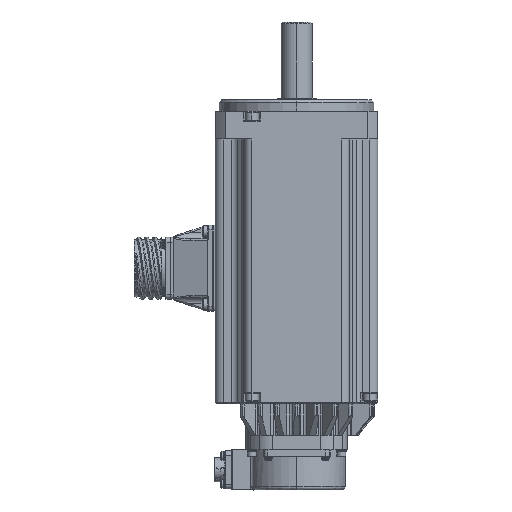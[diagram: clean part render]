
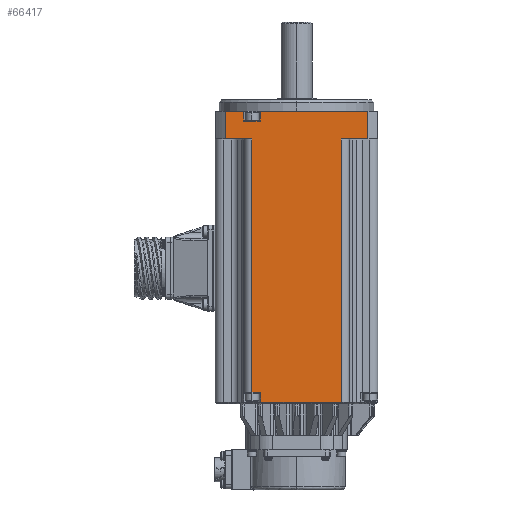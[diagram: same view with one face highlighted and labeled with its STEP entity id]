
A CAD part, left-side view. The second image highlights one B-rep face of the part: STEP entity #66417.
In plain terms, the highlighted planar face has unit normal (-1, 0, 0).
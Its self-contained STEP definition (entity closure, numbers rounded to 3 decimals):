
#910 = VECTOR ( 'NONE', #68885, 1000. ) ;
#1108 = ORIENTED_EDGE ( 'NONE', *, *, #84212, .F. ) ;
#1290 = LINE ( 'NONE', #11956, #14723 ) ;
#1925 = ORIENTED_EDGE ( 'NONE', *, *, #25030, .F. ) ;
#2282 = CARTESIAN_POINT ( 'NONE',  ( 103.295, 174.37, 65.456 ) ) ;
#3080 = VECTOR ( 'NONE', #44673, 1000. ) ;
#3861 = CARTESIAN_POINT ( 'NONE',  ( 103.295, 174.37, 258.956 ) ) ;
#3982 = DIRECTION ( 'NONE',  ( 0., 0., -1. ) ) ;
#3992 = CARTESIAN_POINT ( 'NONE',  ( 103.295, 119.37, 252.956 ) ) ;
#4182 = EDGE_CURVE ( 'NONE', #43213, #47308, #70264, .T. ) ;
#4592 = VERTEX_POINT ( 'NONE', #78632 ) ;
#5978 = CARTESIAN_POINT ( 'NONE',  ( 103.295, 101.87, 258.956 ) ) ;
#8113 = EDGE_CURVE ( 'NONE', #84380, #43213, #46900, .T. ) ;
#8205 = CARTESIAN_POINT ( 'NONE',  ( 103.295, 195.714, 65.456 ) ) ;
#8455 = VECTOR ( 'NONE', #24020, 1000. ) ;
#8927 = DIRECTION ( 'NONE',  ( 0., 0., 1. ) ) ;
#8991 = VERTEX_POINT ( 'NONE', #31332 ) ;
#9054 = VECTOR ( 'NONE', #26387, 1000. ) ;
#9138 = CARTESIAN_POINT ( 'NONE',  ( 103.295, 179.37, 241.956 ) ) ;
#9979 = EDGE_CURVE ( 'NONE', #64198, #76011, #45815, .T. ) ;
#11956 = CARTESIAN_POINT ( 'NONE',  ( 103.295, 179.37, 65.456 ) ) ;
#12300 = VECTOR ( 'NONE', #24030, 1000. ) ;
#12484 = LINE ( 'NONE', #83688, #83376 ) ;
#12647 = DIRECTION ( 'NONE',  ( 0., -1., 0. ) ) ;
#12800 = LINE ( 'NONE', #2282, #46019 ) ;
#13092 = VECTOR ( 'NONE', #34863, 1000. ) ;
#13668 = VECTOR ( 'NONE', #61440, 1000. ) ;
#14723 = VECTOR ( 'NONE', #18603, 1000. ) ;
#14727 = EDGE_CURVE ( 'NONE', #16373, #85250, #30513, .T. ) ;
#15176 = LINE ( 'NONE', #74745, #13092 ) ;
#15423 = CARTESIAN_POINT ( 'NONE',  ( 103.295, 184.37, 258.956 ) ) ;
#15725 = CARTESIAN_POINT ( 'NONE',  ( 103.295, 179.37, 85.956 ) ) ;
#15756 = CARTESIAN_POINT ( 'NONE',  ( 103.295, 119.37, 65.456 ) ) ;
#16373 = VERTEX_POINT ( 'NONE', #3861 ) ;
#17181 = EDGE_CURVE ( 'NONE', #8991, #4592, #73990, .T. ) ;
#18498 = LINE ( 'NONE', #62200, #910 ) ;
#18603 = DIRECTION ( 'NONE',  ( 0., 0., 1. ) ) ;
#20009 = EDGE_CURVE ( 'NONE', #83684, #54760, #49702, .T. ) ;
#22807 = VERTEX_POINT ( 'NONE', #77439 ) ;
#23556 = ORIENTED_EDGE ( 'NONE', *, *, #4182, .F. ) ;
#24020 = DIRECTION ( 'NONE',  ( 0., 1., 0. ) ) ;
#24030 = DIRECTION ( 'NONE',  ( 0., -1., 0. ) ) ;
#25030 = EDGE_CURVE ( 'NONE', #85250, #65761, #56078, .T. ) ;
#25996 = VECTOR ( 'NONE', #68546, 1000. ) ;
#26387 = DIRECTION ( 'NONE',  ( 0., 0., -1. ) ) ;
#27521 = CARTESIAN_POINT ( 'NONE',  ( 103.295, 173.87, 85.956 ) ) ;
#28251 = ORIENTED_EDGE ( 'NONE', *, *, #14727, .F. ) ;
#28375 = CARTESIAN_POINT ( 'NONE',  ( 103.295, 108.027, 258.956 ) ) ;
#29316 = EDGE_LOOP ( 'NONE', ( #1108, #76511, #77282, #1925, #28251, #42912, #43715, #52025, #23556, #43315, #52908, #66127, #45195, #44630 ) ) ;
#30513 = LINE ( 'NONE', #43639, #50212 ) ;
#30724 = CARTESIAN_POINT ( 'NONE',  ( 103.295, 119.37, 85.956 ) ) ;
#31332 = CARTESIAN_POINT ( 'NONE',  ( 103.295, 124.37, 241.956 ) ) ;
#31768 = EDGE_CURVE ( 'NONE', #54760, #16373, #12800, .T. ) ;
#33033 = CARTESIAN_POINT ( 'NONE',  ( 103.295, 184.37, 65.456 ) ) ;
#33385 = EDGE_CURVE ( 'NONE', #76011, #63235, #1290, .T. ) ;
#34863 = DIRECTION ( 'NONE',  ( 0., 1., 0. ) ) ;
#35831 = DIRECTION ( 'NONE',  ( 1., 0., 0. ) ) ;
#38563 = VECTOR ( 'NONE', #3982, 1000. ) ;
#42047 = CARTESIAN_POINT ( 'NONE',  ( 103.295, 119.37, 241.956 ) ) ;
#42089 = EDGE_CURVE ( 'NONE', #63235, #84380, #18498, .T. ) ;
#42912 = ORIENTED_EDGE ( 'NONE', *, *, #31768, .F. ) ;
#43213 = VERTEX_POINT ( 'NONE', #69767 ) ;
#43315 = ORIENTED_EDGE ( 'NONE', *, *, #8113, .F. ) ;
#43639 = CARTESIAN_POINT ( 'NONE',  ( 103.295, 101.87, 258.956 ) ) ;
#43715 = ORIENTED_EDGE ( 'NONE', *, *, #20009, .F. ) ;
#44588 = CARTESIAN_POINT ( 'NONE',  ( 103.295, 174.37, 252.956 ) ) ;
#44630 = ORIENTED_EDGE ( 'NONE', *, *, #71289, .F. ) ;
#44673 = DIRECTION ( 'NONE',  ( 0., 0., -1. ) ) ;
#45195 = ORIENTED_EDGE ( 'NONE', *, *, #9979, .F. ) ;
#45815 = LINE ( 'NONE', #30724, #8455 ) ;
#46019 = VECTOR ( 'NONE', #8927, 1000. ) ;
#46900 = LINE ( 'NONE', #8205, #13668 ) ;
#47308 = VERTEX_POINT ( 'NONE', #15423 ) ;
#49702 = LINE ( 'NONE', #3992, #12300 ) ;
#50212 = VECTOR ( 'NONE', #83665, 1000. ) ;
#50351 = DIRECTION ( 'NONE',  ( 0., 0., 1. ) ) ;
#50426 = CARTESIAN_POINT ( 'NONE',  ( 103.295, 124.37, 65.456 ) ) ;
#50488 = CARTESIAN_POINT ( 'NONE',  ( 103.295, 195.714, 241.956 ) ) ;
#52025 = ORIENTED_EDGE ( 'NONE', *, *, #57353, .F. ) ;
#52908 = ORIENTED_EDGE ( 'NONE', *, *, #42089, .F. ) ;
#54511 = EDGE_CURVE ( 'NONE', #65761, #8991, #77022, .T. ) ;
#54760 = VERTEX_POINT ( 'NONE', #44588 ) ;
#55602 = PLANE ( 'NONE',  #59642 ) ;
#56078 = LINE ( 'NONE', #84707, #3080 ) ;
#57353 = EDGE_CURVE ( 'NONE', #47308, #83684, #62144, .T. ) ;
#59642 = AXIS2_PLACEMENT_3D ( 'NONE', #15756, #35831, #82494 ) ;
#61440 = DIRECTION ( 'NONE',  ( 0., 0., 1. ) ) ;
#62144 = LINE ( 'NONE', #33033, #9054 ) ;
#62200 = CARTESIAN_POINT ( 'NONE',  ( 103.295, 119.37, 241.956 ) ) ;
#62739 = FACE_OUTER_BOUND ( 'NONE', #29316, .T. ) ;
#63235 = VERTEX_POINT ( 'NONE', #9138 ) ;
#64198 = VERTEX_POINT ( 'NONE', #27521 ) ;
#65761 = VERTEX_POINT ( 'NONE', #65885 ) ;
#65885 = CARTESIAN_POINT ( 'NONE',  ( 103.295, 108.027, 241.956 ) ) ;
#66127 = ORIENTED_EDGE ( 'NONE', *, *, #33385, .F. ) ;
#66417 = ADVANCED_FACE ( 'NONE', ( #62739 ), #55602, .F. ) ;
#68546 = DIRECTION ( 'NONE',  ( 0., 1., 0. ) ) ;
#68885 = DIRECTION ( 'NONE',  ( 0., 1., 0. ) ) ;
#69767 = CARTESIAN_POINT ( 'NONE',  ( 103.295, 195.714, 258.956 ) ) ;
#70264 = LINE ( 'NONE', #5978, #83881 ) ;
#71289 = EDGE_CURVE ( 'NONE', #22807, #64198, #12484, .T. ) ;
#73990 = LINE ( 'NONE', #50426, #38563 ) ;
#74745 = CARTESIAN_POINT ( 'NONE',  ( 103.295, 119.37, 79.956 ) ) ;
#76011 = VERTEX_POINT ( 'NONE', #15725 ) ;
#76511 = ORIENTED_EDGE ( 'NONE', *, *, #17181, .F. ) ;
#77022 = LINE ( 'NONE', #42047, #25996 ) ;
#77282 = ORIENTED_EDGE ( 'NONE', *, *, #54511, .F. ) ;
#77439 = CARTESIAN_POINT ( 'NONE',  ( 103.295, 173.87, 79.956 ) ) ;
#78632 = CARTESIAN_POINT ( 'NONE',  ( 103.295, 124.37, 79.956 ) ) ;
#82491 = CARTESIAN_POINT ( 'NONE',  ( 103.295, 184.37, 252.956 ) ) ;
#82494 = DIRECTION ( 'NONE',  ( 0., 0., -1. ) ) ;
#83376 = VECTOR ( 'NONE', #50351, 1000. ) ;
#83665 = DIRECTION ( 'NONE',  ( 0., -1., 0. ) ) ;
#83684 = VERTEX_POINT ( 'NONE', #82491 ) ;
#83688 = CARTESIAN_POINT ( 'NONE',  ( 103.295, 173.87, 65.456 ) ) ;
#83881 = VECTOR ( 'NONE', #12647, 1000. ) ;
#84212 = EDGE_CURVE ( 'NONE', #4592, #22807, #15176, .T. ) ;
#84380 = VERTEX_POINT ( 'NONE', #50488 ) ;
#84707 = CARTESIAN_POINT ( 'NONE',  ( 103.295, 108.027, 265.956 ) ) ;
#85250 = VERTEX_POINT ( 'NONE', #28375 ) ;
